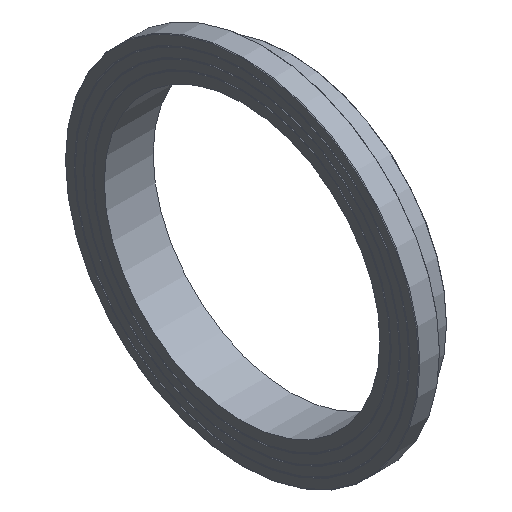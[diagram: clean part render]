
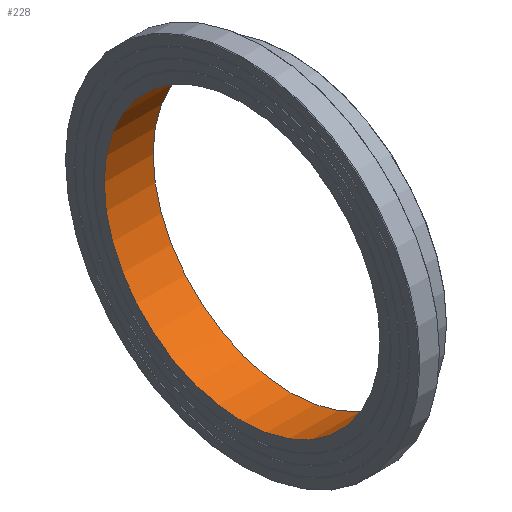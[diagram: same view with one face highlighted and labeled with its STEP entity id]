
A CAD part, isometric view. The second image highlights one B-rep face of the part: STEP entity #228.
In plain terms, the highlighted cylindrical face has radius 352.6 mm (diameter 705.2 mm), a full revolution.
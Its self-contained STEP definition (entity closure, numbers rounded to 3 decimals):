
#33=CYLINDRICAL_SURFACE('',#274,352.6);
#50=ORIENTED_EDGE('',*,*,#79,.F.);
#51=ORIENTED_EDGE('',*,*,#76,.T.);
#76=EDGE_CURVE('',#96,#96,#116,.T.);
#79=EDGE_CURVE('',#99,#99,#119,.T.);
#96=VERTEX_POINT('',#383);
#99=VERTEX_POINT('',#390);
#116=CIRCLE('',#257,352.6);
#119=CIRCLE('',#261,352.6);
#150=EDGE_LOOP('',(#50));
#151=EDGE_LOOP('',(#51));
#190=FACE_BOUND('',#150,.T.);
#191=FACE_BOUND('',#151,.T.);
#228=ADVANCED_FACE('',(#190,#191),#33,.F.);
#257=AXIS2_PLACEMENT_3D('',#382,#303,#304);
#261=AXIS2_PLACEMENT_3D('',#389,#311,#312);
#274=AXIS2_PLACEMENT_3D('',#410,#337,#338);
#303=DIRECTION('',(-1.,0.,0.));
#304=DIRECTION('',(0.,0.,1.));
#311=DIRECTION('',(-1.,0.,0.));
#312=DIRECTION('',(0.,0.,1.));
#337=DIRECTION('',(-1.,0.,0.));
#338=DIRECTION('',(0.,0.,1.));
#382=CARTESIAN_POINT('',(0.,0.,0.));
#383=CARTESIAN_POINT('',(0.,0.,352.6));
#389=CARTESIAN_POINT('',(125.,0.,0.));
#390=CARTESIAN_POINT('',(125.,0.,352.6));
#410=CARTESIAN_POINT('',(60.,0.,0.));
